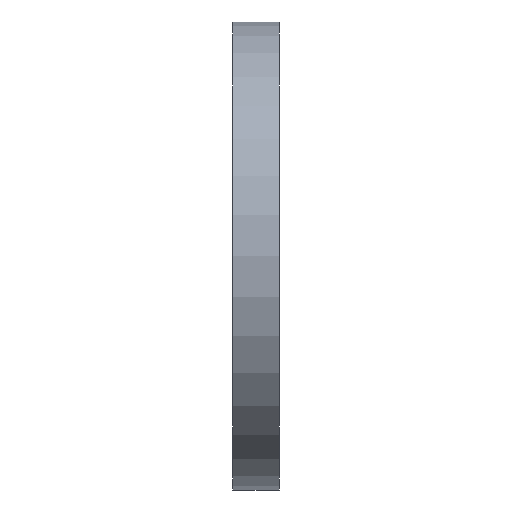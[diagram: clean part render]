
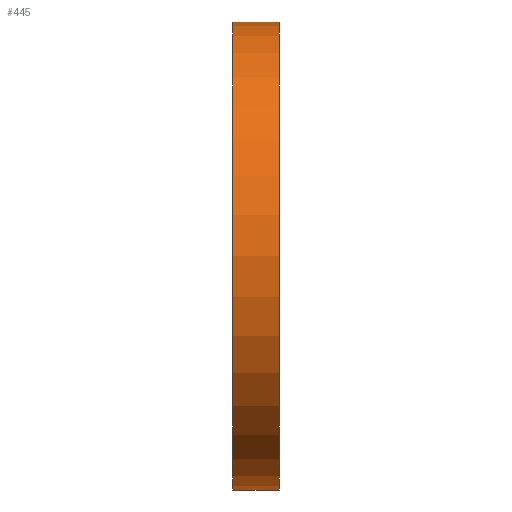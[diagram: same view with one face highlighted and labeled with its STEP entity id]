
A CAD part, left-side view. The second image highlights one B-rep face of the part: STEP entity #445.
In plain terms, the highlighted cylindrical face has radius 150 mm (diameter 300 mm), a partial arc.
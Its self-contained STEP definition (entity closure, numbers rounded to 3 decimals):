
#25 = AXIS2_PLACEMENT_3D ( 'NONE', #390, #584, #534 ) ;
#35 = CARTESIAN_POINT ( 'NONE',  ( 0., 34.695, -150. ) ) ;
#36 = ORIENTED_EDGE ( 'NONE', *, *, #163, .F. ) ;
#39 = EDGE_CURVE ( 'NONE', #309, #118, #703, .T. ) ;
#41 = ORIENTED_EDGE ( 'NONE', *, *, #39, .T. ) ;
#50 = FACE_OUTER_BOUND ( 'NONE', #273, .T. ) ;
#53 = DIRECTION ( 'NONE',  ( 0., 0., 1. ) ) ;
#118 = VERTEX_POINT ( 'NONE', #798 ) ;
#120 = AXIS2_PLACEMENT_3D ( 'NONE', #238, #762, #53 ) ;
#134 = DIRECTION ( 'NONE',  ( 0., 0., 1. ) ) ;
#163 = EDGE_CURVE ( 'NONE', #267, #118, #209, .T. ) ;
#180 = AXIS2_PLACEMENT_3D ( 'NONE', #461, #403, #134 ) ;
#208 = VECTOR ( 'NONE', #248, 1000. ) ;
#209 = CIRCLE ( 'NONE', #25, 150. ) ;
#219 = DIRECTION ( 'NONE',  ( 0., 1., 0. ) ) ;
#230 = CARTESIAN_POINT ( 'NONE',  ( 0., 0., 150. ) ) ;
#238 = CARTESIAN_POINT ( 'NONE',  ( 0., 34.695, 0. ) ) ;
#248 = DIRECTION ( 'NONE',  ( 0., 1., 0. ) ) ;
#267 = VERTEX_POINT ( 'NONE', #412 ) ;
#273 = EDGE_LOOP ( 'NONE', ( #607, #755, #41, #36 ) ) ;
#274 = VECTOR ( 'NONE', #219, 1000. ) ;
#301 = VERTEX_POINT ( 'NONE', #561 ) ;
#303 = CYLINDRICAL_SURFACE ( 'NONE', #120, 150. ) ;
#309 = VERTEX_POINT ( 'NONE', #230 ) ;
#311 = CARTESIAN_POINT ( 'NONE',  ( 0., 34.695, 150. ) ) ;
#390 = CARTESIAN_POINT ( 'NONE',  ( 0., 30., 0. ) ) ;
#403 = DIRECTION ( 'NONE',  ( 0., 1., 0. ) ) ;
#412 = CARTESIAN_POINT ( 'NONE',  ( 0., 30., -150. ) ) ;
#421 = LINE ( 'NONE', #35, #274 ) ;
#445 = ADVANCED_FACE ( 'NONE', ( #50 ), #303, .T. ) ;
#461 = CARTESIAN_POINT ( 'NONE',  ( 0., 0., 0. ) ) ;
#475 = CIRCLE ( 'NONE', #180, 150. ) ;
#534 = DIRECTION ( 'NONE',  ( 0., 0., 1. ) ) ;
#561 = CARTESIAN_POINT ( 'NONE',  ( 0., 0., -150. ) ) ;
#575 = EDGE_CURVE ( 'NONE', #301, #309, #475, .T. ) ;
#584 = DIRECTION ( 'NONE',  ( 0., 1., 0. ) ) ;
#607 = ORIENTED_EDGE ( 'NONE', *, *, #701, .F. ) ;
#701 = EDGE_CURVE ( 'NONE', #301, #267, #421, .T. ) ;
#703 = LINE ( 'NONE', #311, #208 ) ;
#755 = ORIENTED_EDGE ( 'NONE', *, *, #575, .T. ) ;
#762 = DIRECTION ( 'NONE',  ( 0., 1., 0. ) ) ;
#798 = CARTESIAN_POINT ( 'NONE',  ( 0., 30., 150. ) ) ;
